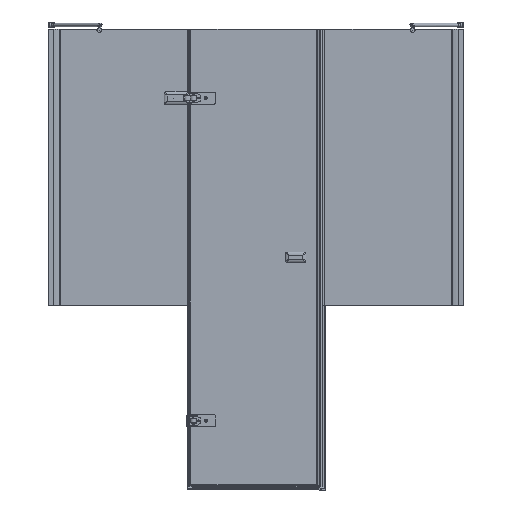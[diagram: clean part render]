
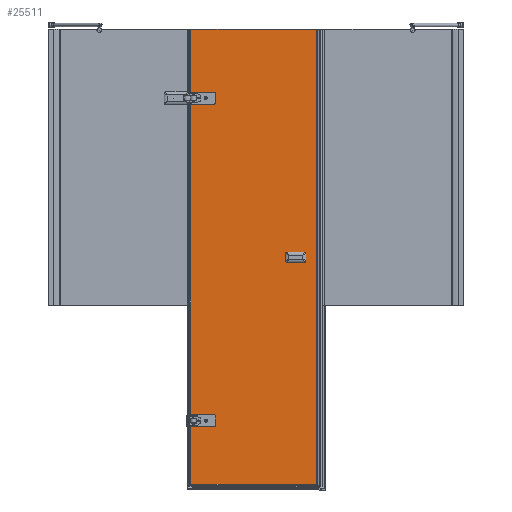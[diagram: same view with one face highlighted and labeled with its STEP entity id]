
A CAD part, front view. The second image highlights one B-rep face of the part: STEP entity #25511.
In plain terms, the highlighted planar face has unit normal (0, -1, 0).
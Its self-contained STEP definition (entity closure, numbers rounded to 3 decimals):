
#1402=LINE($,#37779,#3837);
#1406=LINE($,#37791,#3841);
#1411=LINE($,#37806,#3846);
#1415=LINE($,#37818,#3850);
#1420=LINE($,#37837,#3855);
#1423=LINE($,#37843,#3858);
#1426=LINE($,#37859,#3861);
#1427=LINE($,#37862,#3862);
#1434=LINE($,#37874,#3869);
#1435=LINE($,#37876,#3870);
#1436=LINE($,#37878,#3871);
#1437=LINE($,#37879,#3872);
#3837=VECTOR($,#29925,18.);
#3841=VECTOR($,#29937,32.);
#3846=VECTOR($,#29950,18.);
#3850=VECTOR($,#29962,32.);
#3855=VECTOR($,#29981,32.);
#3858=VECTOR($,#29986,32.);
#3861=VECTOR($,#30003,261.);
#3862=VECTOR($,#30006,281.);
#3869=VECTOR($,#30017,1362.);
#3870=VECTOR($,#30018,551.);
#3871=VECTOR($,#30019,1980.);
#3872=VECTOR($,#30020,551.);
#6273=PLANE($,#27202);
#7176=FACE_BOUND($,#9055,.T.);
#7177=FACE_BOUND($,#9056,.T.);
#7178=FACE_BOUND($,#9057,.T.);
#7179=FACE_BOUND($,#9058,.T.);
#7180=FACE_BOUND($,#9059,.T.);
#9055=EDGE_LOOP($,(#18153));
#9056=EDGE_LOOP($,(#18154));
#9057=EDGE_LOOP($,(#18155));
#9058=EDGE_LOOP($,(#18156));
#9059=EDGE_LOOP($,(#18157,#18158,#18159,#18160,#18161,#18162,#18163,#18164,
#18165,#18166,#18167,#18168,#18169,#18170,#18171,#18172));
#10869=CIRCLE($,#27170,10.);
#10871=CIRCLE($,#27174,10.);
#10873=CIRCLE($,#27178,10.);
#10875=CIRCLE($,#27182,10.);
#10878=CIRCLE($,#27187,5.5);
#10880=CIRCLE($,#27190,5.5);
#10882=CIRCLE($,#27195,8.);
#10884=CIRCLE($,#27198,8.);
#11878=VERTEX_POINT($,#37769);
#11879=VERTEX_POINT($,#37770);
#11882=VERTEX_POINT($,#37778);
#11884=VERTEX_POINT($,#37784);
#11886=VERTEX_POINT($,#37790);
#11888=VERTEX_POINT($,#37796);
#11889=VERTEX_POINT($,#37797);
#11892=VERTEX_POINT($,#37805);
#11894=VERTEX_POINT($,#37811);
#11896=VERTEX_POINT($,#37817);
#11899=VERTEX_POINT($,#37825);
#11901=VERTEX_POINT($,#37830);
#11903=VERTEX_POINT($,#37835);
#11905=VERTEX_POINT($,#37841);
#11907=VERTEX_POINT($,#37847);
#11909=VERTEX_POINT($,#37852);
#11911=VERTEX_POINT($,#37857);
#11912=VERTEX_POINT($,#37861);
#11916=VERTEX_POINT($,#37875);
#11917=VERTEX_POINT($,#37877);
#14382=EDGE_CURVE($,#11878,#11879,#10869,.T.);
#14386=EDGE_CURVE($,#11882,#11879,#1402,.T.);
#14389=EDGE_CURVE($,#11882,#11884,#10871,.T.);
#14392=EDGE_CURVE($,#11886,#11884,#1406,.T.);
#14395=EDGE_CURVE($,#11888,#11889,#10873,.T.);
#14399=EDGE_CURVE($,#11892,#11889,#1411,.T.);
#14402=EDGE_CURVE($,#11892,#11894,#10875,.T.);
#14405=EDGE_CURVE($,#11896,#11894,#1415,.T.);
#14409=EDGE_CURVE($,#11899,#11899,#10878,.T.);
#14411=EDGE_CURVE($,#11901,#11901,#10880,.T.);
#14414=EDGE_CURVE($,#11878,#11903,#1420,.T.);
#14417=EDGE_CURVE($,#11888,#11905,#1423,.T.);
#14419=EDGE_CURVE($,#11907,#11907,#10882,.T.);
#14421=EDGE_CURVE($,#11909,#11909,#10884,.T.);
#14424=EDGE_CURVE($,#11911,#11905,#1426,.T.);
#14425=EDGE_CURVE($,#11886,#11912,#1427,.T.);
#14432=EDGE_CURVE($,#11896,#11903,#1434,.T.);
#14433=EDGE_CURVE($,#11911,#11916,#1435,.T.);
#14434=EDGE_CURVE($,#11916,#11917,#1436,.T.);
#14435=EDGE_CURVE($,#11912,#11917,#1437,.T.);
#18153=ORIENTED_EDGE($,*,*,#14409,.T.);
#18154=ORIENTED_EDGE($,*,*,#14411,.T.);
#18155=ORIENTED_EDGE($,*,*,#14421,.T.);
#18156=ORIENTED_EDGE($,*,*,#14419,.T.);
#18157=ORIENTED_EDGE($,*,*,#14392,.T.);
#18158=ORIENTED_EDGE($,*,*,#14389,.F.);
#18159=ORIENTED_EDGE($,*,*,#14386,.T.);
#18160=ORIENTED_EDGE($,*,*,#14382,.F.);
#18161=ORIENTED_EDGE($,*,*,#14414,.T.);
#18162=ORIENTED_EDGE($,*,*,#14432,.F.);
#18163=ORIENTED_EDGE($,*,*,#14405,.T.);
#18164=ORIENTED_EDGE($,*,*,#14402,.F.);
#18165=ORIENTED_EDGE($,*,*,#14399,.T.);
#18166=ORIENTED_EDGE($,*,*,#14395,.F.);
#18167=ORIENTED_EDGE($,*,*,#14417,.T.);
#18168=ORIENTED_EDGE($,*,*,#14424,.F.);
#18169=ORIENTED_EDGE($,*,*,#14433,.T.);
#18170=ORIENTED_EDGE($,*,*,#14434,.T.);
#18171=ORIENTED_EDGE($,*,*,#14435,.F.);
#18172=ORIENTED_EDGE($,*,*,#14425,.F.);
#25511=ADVANCED_FACE($,(#7176,#7177,#7178,#7179,#7180),#6273,.T.);
#27170=AXIS2_PLACEMENT_3D($,#37771,#29917,#29918);
#27174=AXIS2_PLACEMENT_3D($,#37785,#29930,#29931);
#27178=AXIS2_PLACEMENT_3D($,#37798,#29942,#29943);
#27182=AXIS2_PLACEMENT_3D($,#37812,#29955,#29956);
#27187=AXIS2_PLACEMENT_3D($,#37826,#29969,#29970);
#27190=AXIS2_PLACEMENT_3D($,#37831,#29975,#29976);
#27195=AXIS2_PLACEMENT_3D($,#37848,#29991,#29992);
#27198=AXIS2_PLACEMENT_3D($,#37853,#29997,#29998);
#27202=AXIS2_PLACEMENT_3D($,#37873,#30015,#30016);
#29917=DIRECTION('center_axis',(0.,-1.,0.));
#29918=DIRECTION('ref_axis',(0.707,0.,-0.707));
#29925=DIRECTION($,(0.,0.,-1.));
#29930=DIRECTION('center_axis',(0.,-1.,0.));
#29931=DIRECTION('ref_axis',(0.707,0.,0.707));
#29937=DIRECTION($,(1.,0.,0.));
#29942=DIRECTION('center_axis',(0.,-1.,0.));
#29943=DIRECTION('ref_axis',(0.707,0.,-0.707));
#29950=DIRECTION($,(0.,0.,-1.));
#29955=DIRECTION('center_axis',(0.,-1.,0.));
#29956=DIRECTION('ref_axis',(0.707,0.,0.707));
#29962=DIRECTION($,(1.,0.,0.));
#29969=DIRECTION('center_axis',(0.,1.,0.));
#29970=DIRECTION('ref_axis',(-1.,0.,0.));
#29975=DIRECTION('center_axis',(0.,1.,0.));
#29976=DIRECTION('ref_axis',(-1.,0.,0.));
#29981=DIRECTION($,(-1.,0.,0.));
#29986=DIRECTION($,(-1.,0.,0.));
#29991=DIRECTION('center_axis',(0.,1.,0.));
#29992=DIRECTION('ref_axis',(-1.,0.,0.));
#29997=DIRECTION('center_axis',(0.,1.,0.));
#29998=DIRECTION('ref_axis',(-1.,0.,0.));
#30003=DIRECTION($,(0.,0.,1.));
#30006=DIRECTION($,(0.,0.,1.));
#30015=DIRECTION('center_axis',(0.,-1.,0.));
#30016=DIRECTION('ref_axis',(1.,0.,0.));
#30017=DIRECTION($,(0.,0.,1.));
#30018=DIRECTION($,(1.,0.,0.));
#30019=DIRECTION($,(0.,0.,1.));
#30020=DIRECTION($,(1.,0.,0.));
#37769=CARTESIAN_POINT('',(32.,0.,1661.));
#37770=CARTESIAN_POINT('',(42.,0.,1671.));
#37771=CARTESIAN_POINT('Origin',(32.,0.,1671.));
#37778=CARTESIAN_POINT('',(42.,0.,1689.));
#37779=CARTESIAN_POINT($,(42.,0.,849.5));
#37784=CARTESIAN_POINT('',(32.,0.,1699.));
#37785=CARTESIAN_POINT('Origin',(32.,0.,1689.));
#37790=CARTESIAN_POINT('',(0.,0.,1699.));
#37791=CARTESIAN_POINT($,(0.,0.,1699.));
#37796=CARTESIAN_POINT('',(32.,0.,261.));
#37797=CARTESIAN_POINT('',(42.,0.,271.));
#37798=CARTESIAN_POINT('Origin',(32.,0.,271.));
#37805=CARTESIAN_POINT('',(42.,0.,289.));
#37806=CARTESIAN_POINT($,(42.,0.,149.5));
#37811=CARTESIAN_POINT('',(32.,0.,299.));
#37812=CARTESIAN_POINT('Origin',(32.,0.,289.));
#37817=CARTESIAN_POINT('',(0.,0.,299.));
#37818=CARTESIAN_POINT($,(0.,0.,299.));
#37825=CARTESIAN_POINT('',(486.5,0.,976.));
#37826=CARTESIAN_POINT('Origin',(481.,0.,976.));
#37830=CARTESIAN_POINT('',(486.5,0.,1004.));
#37831=CARTESIAN_POINT('Origin',(481.,0.,1004.));
#37835=CARTESIAN_POINT('',(0.,0.,1661.));
#37837=CARTESIAN_POINT($,(21.,0.,1661.));
#37841=CARTESIAN_POINT('',(0.,0.,261.));
#37843=CARTESIAN_POINT($,(21.,0.,261.));
#37847=CARTESIAN_POINT('',(73.,0.,1680.));
#37848=CARTESIAN_POINT('Origin',(65.,0.,1680.));
#37852=CARTESIAN_POINT('',(73.,0.,280.));
#37853=CARTESIAN_POINT('Origin',(65.,0.,280.));
#37857=CARTESIAN_POINT('',(0.,0.,0.));
#37859=CARTESIAN_POINT($,(0.,0.,0.));
#37861=CARTESIAN_POINT('',(0.,0.,1980.));
#37862=CARTESIAN_POINT($,(0.,0.,0.));
#37873=CARTESIAN_POINT('Origin',(0.,0.,0.));
#37874=CARTESIAN_POINT($,(0.,0.,0.));
#37875=CARTESIAN_POINT('',(551.,0.,0.));
#37876=CARTESIAN_POINT($,(0.,0.,0.));
#37877=CARTESIAN_POINT('',(551.,0.,1980.));
#37878=CARTESIAN_POINT($,(551.,0.,0.));
#37879=CARTESIAN_POINT($,(0.,0.,1980.));
